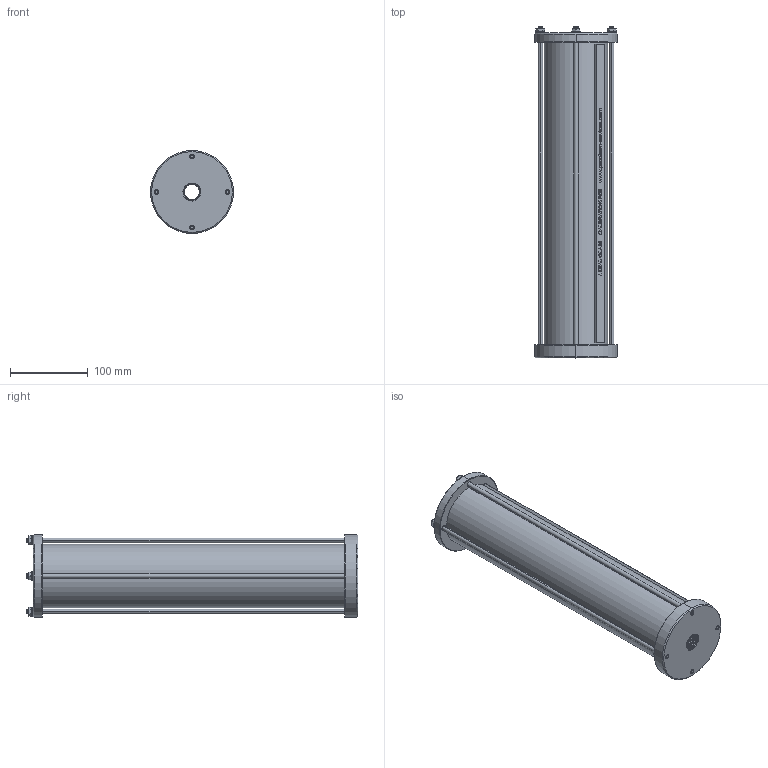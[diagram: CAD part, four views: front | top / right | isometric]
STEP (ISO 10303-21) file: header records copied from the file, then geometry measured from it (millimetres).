
FILE_DESCRIPTION (( 'STEP AP214' ), '1' );
FILE_NAME ('1.5LTR-C-11-34.STEP', '2026-01-12T12:50:20', ( '' ), ( '' ), 'SwSTEP 2.0', 'SolidWorks 2024', '' );
FILE_SCHEMA (( 'AUTOMOTIVE_DESIGN' ));
Length unit declared in the file: millimetre
Products named in the file (1): 1.5LTR-C-11-34
Bounding box: 107 x 428 x 107 mm (x, y, z)
Surface area: 276629.4 mm2 (no closed solid volume)
Topology: 0 solids, 42 shells, 551 faces, 2147 edges, 1602 vertices
Faces by surface type: cylinder 194, bspline 149, plane 144, cone 56, torus 8
Entity records: 55285 total; most frequent: CARTESIAN_POINT 34083, ORIENTED_EDGE 3125, DIRECTION 2379, EDGE_CURVE 2147, VERTEX_POINT 1602, VECTOR 1015, LINE 1015, AXIS2_PLACEMENT_3D 682
